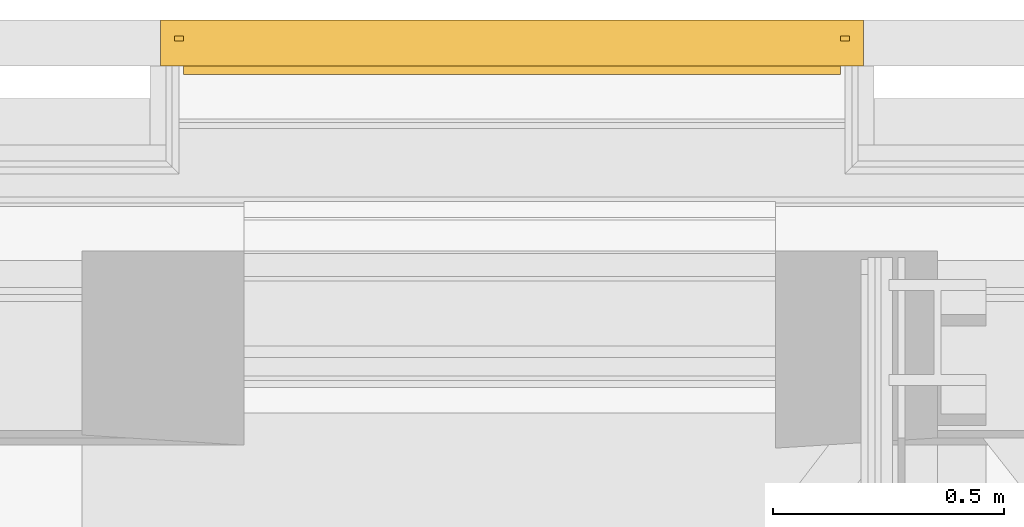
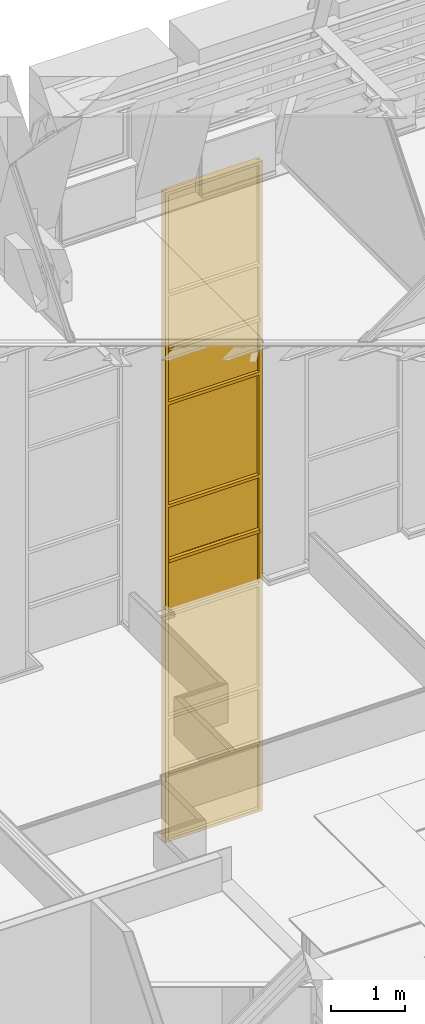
# One storey, part 152 of 183: 1 curtain wall.
"""IFC2X3 building model written with IfcOpenShell, lengths in metres."""

from ifc_helpers import new_model, entity, si_unit, converted_unit, derived_unit, money_unit, direction, frame, origin_with_axes, place, context, subcontext, project, spatial, faceted_brep, material, type_object, element, save


model = new_model("IFC2X3")

# Units and contexts
model_context = context("Model", 3, precision=1e-05, world=origin_with_axes(), true_north=direction((0.0, 1.0)))
body_context = subcontext(model_context, "Body", "Model", "MODEL_VIEW", scale=1.0)
ifc_project = project(units=[si_unit("LENGTHUNIT", "METRE"), si_unit("AREAUNIT", "SQUARE_METRE"), si_unit("VOLUMEUNIT", "CUBIC_METRE"), si_unit("ABSORBEDDOSEUNIT", "GRAY"), si_unit("AMOUNTOFSUBSTANCEUNIT", "MOLE"), si_unit("DOSEEQUIVALENTUNIT", "SIEVERT"), si_unit("ELECTRICCAPACITANCEUNIT", "FARAD"), si_unit("ELECTRICCHARGEUNIT", "COULOMB"), si_unit("ELECTRICCONDUCTANCEUNIT", "SIEMENS"), si_unit("ELECTRICCURRENTUNIT", "AMPERE"), si_unit("ELECTRICRESISTANCEUNIT", "OHM"), si_unit("ELECTRICVOLTAGEUNIT", "VOLT"), si_unit("ENERGYUNIT", "JOULE"), si_unit("FORCEUNIT", "NEWTON"), si_unit("FREQUENCYUNIT", "HERTZ"), si_unit("ILLUMINANCEUNIT", "LUX"), si_unit("INDUCTANCEUNIT", "HENRY"), si_unit("LUMINOUSFLUXUNIT", "LUMEN"), si_unit("LUMINOUSINTENSITYUNIT", "CANDELA"), si_unit("MAGNETICFLUXDENSITYUNIT", "TESLA"), si_unit("MAGNETICFLUXUNIT", "WEBER"), si_unit("MASSUNIT", "GRAM"), converted_unit("PLANEANGLEUNIT", "degree", entity("IfcReal", 0.0174532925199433), si_unit("PLANEANGLEUNIT", "RADIAN"), dimensions=[0, 0, 0, 0, 0, 0, 0]), si_unit("POWERUNIT", "WATT"), si_unit("PRESSUREUNIT", "PASCAL"), si_unit("RADIOACTIVITYUNIT", "BECQUEREL"), si_unit("SOLIDANGLEUNIT", "STERADIAN"), si_unit("THERMODYNAMICTEMPERATUREUNIT", "KELVIN"), si_unit("TIMEUNIT", "SECOND"), derived_unit("ACCELERATIONUNIT", [(si_unit("LENGTHUNIT", "METRE"), 1), (si_unit("TIMEUNIT", "SECOND"), -2)]), derived_unit("ANGULARVELOCITYUNIT", [(converted_unit("PLANEANGLEUNIT", "degree", entity("IfcReal", 0.0174532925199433), si_unit("PLANEANGLEUNIT", "RADIAN"), dimensions=[0, 0, 0, 0, 0, 0, 0]), 1), (si_unit("TIMEUNIT", "SECOND"), -1)]), derived_unit("CURVATUREUNIT", [(converted_unit("PLANEANGLEUNIT", "degree", entity("IfcReal", 0.0174532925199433), si_unit("PLANEANGLEUNIT", "RADIAN"), dimensions=[0, 0, 0, 0, 0, 0, 0]), 1), (si_unit("LENGTHUNIT", "METRE"), -1)]), derived_unit("DYNAMICVISCOSITYUNIT", [(si_unit("PRESSUREUNIT", "PASCAL"), 1), (si_unit("TIMEUNIT", "SECOND"), 1)]), derived_unit("HEATFLUXDENSITYUNIT", [(si_unit("POWERUNIT", "WATT"), 1), (si_unit("LENGTHUNIT", "METRE"), -2)]), derived_unit("HEATINGVALUEUNIT", [(si_unit("ENERGYUNIT", "JOULE"), 1), (si_unit("MASSUNIT", "GRAM"), -1)]), derived_unit("INTEGERCOUNTRATEUNIT", [(si_unit("TIMEUNIT", "SECOND"), -1)]), derived_unit("IONCONCENTRATIONUNIT", [(si_unit("MASSUNIT", "GRAM"), 1), (si_unit("VOLUMEUNIT", "CUBIC_METRE"), -1)]), derived_unit("ISOTHERMALMOISTURECAPACITYUNIT", [(si_unit("VOLUMEUNIT", "CUBIC_METRE"), 1), (si_unit("MASSUNIT", "GRAM"), -1)]), derived_unit("KINEMATICVISCOSITYUNIT", [(si_unit("AREAUNIT", "SQUARE_METRE"), 1), (si_unit("TIMEUNIT", "SECOND"), -1)]), derived_unit("LINEARFORCEUNIT", [(si_unit("FORCEUNIT", "NEWTON"), 1), (si_unit("LENGTHUNIT", "METRE"), -1)]), derived_unit("LINEARMOMENTUNIT", [(si_unit("FORCEUNIT", "NEWTON"), 1), (si_unit("LENGTHUNIT", "METRE"), -1)]), derived_unit("LINEARSTIFFNESSUNIT", [(si_unit("FORCEUNIT", "NEWTON"), 1), (si_unit("LENGTHUNIT", "METRE"), -1)]), derived_unit("LINEARVELOCITYUNIT", [(si_unit("LENGTHUNIT", "METRE"), 1), (si_unit("TIMEUNIT", "SECOND"), -1)]), derived_unit("LUMINOUSINTENSITYDISTRIBUTIONUNIT", [(si_unit("LUMINOUSINTENSITYUNIT", "CANDELA"), 1), (si_unit("LUMINOUSFLUXUNIT", "LUMEN"), -1)]), derived_unit("MASSDENSITYUNIT", [(si_unit("MASSUNIT", "GRAM"), 1), (si_unit("VOLUMEUNIT", "CUBIC_METRE"), -1)]), derived_unit("MASSFLOWRATEUNIT", [(si_unit("MASSUNIT", "GRAM"), 1), (si_unit("TIMEUNIT", "SECOND"), -1)]), derived_unit("MASSPERLENGTHUNIT", [(si_unit("MASSUNIT", "GRAM"), 1), (si_unit("LENGTHUNIT", "METRE"), -1)]), derived_unit("MODULUSOFELASTICITYUNIT", [(si_unit("FORCEUNIT", "NEWTON"), 1), (si_unit("AREAUNIT", "SQUARE_METRE"), -1)]), derived_unit("MODULUSOFLINEARSUBGRADEREACTIONUNIT", [(si_unit("FORCEUNIT", "NEWTON"), 1), (si_unit("LENGTHUNIT", "METRE"), -2)]), derived_unit("MODULUSOFROTATIONALSUBGRADEREACTIONUNIT", [(si_unit("FORCEUNIT", "NEWTON"), 1), (si_unit("LENGTHUNIT", "METRE"), 1)]), derived_unit("MODULUSOFSUBGRADEREACTIONUNIT", [(si_unit("FORCEUNIT", "NEWTON"), 1), (si_unit("VOLUMEUNIT", "CUBIC_METRE"), -1)]), derived_unit("MOISTUREDIFFUSIVITYUNIT", [(si_unit("VOLUMEUNIT", "CUBIC_METRE"), 1), (si_unit("TIMEUNIT", "SECOND"), -1)]), derived_unit("MOLECULARWEIGHTUNIT", [(si_unit("MASSUNIT", "GRAM"), 1), (si_unit("AMOUNTOFSUBSTANCEUNIT", "MOLE"), -1)]), derived_unit("PLANARFORCEUNIT", [(si_unit("FORCEUNIT", "NEWTON"), 1), (si_unit("LENGTHUNIT", "METRE"), -2)]), derived_unit("ROTATIONALFREQUENCYUNIT", [(si_unit("TIMEUNIT", "SECOND"), -1)]), derived_unit("ROTATIONALMASSUNIT", [(si_unit("MASSUNIT", "GRAM"), 1), (si_unit("LENGTHUNIT", "METRE"), 2)]), derived_unit("ROTATIONALSTIFFNESSUNIT", [(si_unit("FORCEUNIT", "NEWTON"), 1), (si_unit("LENGTHUNIT", "METRE"), 1), (converted_unit("PLANEANGLEUNIT", "degree", entity("IfcReal", 0.0174532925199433), si_unit("PLANEANGLEUNIT", "RADIAN"), dimensions=[0, 0, 0, 0, 0, 0, 0]), -1)]), derived_unit("SECTIONAREAINTEGRALUNIT", [(si_unit("LENGTHUNIT", "METRE"), 5)]), derived_unit("SECTIONMODULUSUNIT", [(si_unit("LENGTHUNIT", "METRE"), 3)]), derived_unit("SHEARMODULUSUNIT", [(si_unit("FORCEUNIT", "NEWTON"), 1), (si_unit("AREAUNIT", "SQUARE_METRE"), -1)]), derived_unit("SOUNDPOWERUNIT", [(si_unit("ENERGYUNIT", "JOULE"), 1), (si_unit("TIMEUNIT", "SECOND"), -1)]), derived_unit("SPECIFICHEATCAPACITYUNIT", [(si_unit("FORCEUNIT", "NEWTON"), 1), (si_unit("MASSUNIT", "GRAM"), -1), (si_unit("THERMODYNAMICTEMPERATUREUNIT", "KELVIN"), -1)]), derived_unit("TEMPERATUREGRADIENTUNIT", [(si_unit("THERMODYNAMICTEMPERATUREUNIT", "KELVIN"), 1), (si_unit("LENGTHUNIT", "METRE"), -1)]), derived_unit("THERMALADMITTANCEUNIT", [(si_unit("POWERUNIT", "WATT"), 1), (si_unit("AREAUNIT", "SQUARE_METRE"), -1), (si_unit("THERMODYNAMICTEMPERATUREUNIT", "KELVIN"), -1)]), derived_unit("THERMALCONDUCTANCEUNIT", [(si_unit("POWERUNIT", "WATT"), 1), (si_unit("LENGTHUNIT", "METRE"), -1), (si_unit("THERMODYNAMICTEMPERATUREUNIT", "KELVIN"), -1)]), derived_unit("THERMALEXPANSIONCOEFFICIENTUNIT", [(si_unit("THERMODYNAMICTEMPERATUREUNIT", "KELVIN"), -1)]), derived_unit("THERMALRESISTANCEUNIT", [(si_unit("AREAUNIT", "SQUARE_METRE"), 1), (si_unit("POWERUNIT", "WATT"), -1)]), derived_unit("THERMALTRANSMITTANCEUNIT", [(si_unit("POWERUNIT", "WATT"), 1), (si_unit("AREAUNIT", "SQUARE_METRE"), -1), (si_unit("THERMODYNAMICTEMPERATUREUNIT", "KELVIN"), -1)]), derived_unit("TORQUEUNIT", [(si_unit("FORCEUNIT", "NEWTON"), 1), (si_unit("LENGTHUNIT", "METRE"), 1)]), derived_unit("VAPORPERMEABILITYUNIT", [(si_unit("MASSUNIT", "GRAM"), 1), (si_unit("TIMEUNIT", "SECOND"), -1)]), derived_unit("VOLUMETRICFLOWRATEUNIT", [(si_unit("VOLUMEUNIT", "CUBIC_METRE"), 1), (si_unit("TIMEUNIT", "SECOND"), -1)]), derived_unit("WARPINGCONSTANTUNIT", [(si_unit("LENGTHUNIT", "METRE"), 6)]), derived_unit("WARPINGMOMENTUNIT", [(si_unit("FORCEUNIT", "NEWTON"), 1), (si_unit("LENGTHUNIT", "METRE"), 2)]), money_unit("GBP")], contexts=[model_context])

# Site, building, storey
site_placement = place(None, origin_with_axes())
site = spatial("IfcSite", under=ifc_project, at=site_placement, Name="Site", CompositionType="ELEMENT")
building_placement = place(site_placement, origin_with_axes())
building = spatial("IfcBuilding", under=site, at=building_placement, Name="Building01", CompositionType="ELEMENT")
storey_placement = place(building_placement, frame((0.0, 0.0, 5.15), z_axis=(0.0, 0.0, 1.0), x_axis=(1.0, 0.0, 0.0)))
storey = spatial("IfcBuildingStorey", under=building, at=storey_placement, Name="1F", CompositionType="ELEMENT", Elevation=5.15)

# Curtain wall
ifc_material = material(Name="A-CurtainWall_Frame")
curtain_wall_type = type_object("IfcCurtainWallType", Name="Pattern - Maximum Spacing", PredefinedType="NOTDEFINED")
curtain_wall_placement = place(storey_placement, frame((0.0, 0.0, -5.15), z_axis=(0.0, 0.0, 1.0), x_axis=(1.0, 0.0, 0.0)))
element("IfcCurtainWall", 1, at=curtain_wall_placement, inside=storey, type_object=curtain_wall_type, material=ifc_material, Name="03", ObjectType="Pattern - Maximum Spacing", context=body_context, shape_type="Brep", body=[
    faceted_brep([(21.9, 14.85, 5.118945), (21.9, 14.87, 5.118945), (20.44, 14.87, 5.118945), (20.44, 14.85, 5.118945), (21.9, 14.85, 4.0), (21.9, 14.87, 4.0), (20.44, 14.85, 4.0), (20.44, 14.87, 4.0)], [[[0, 1, 2, 3]], [[4, 5, 1, 0]], [[6, 7, 5, 4]], [[3, 2, 7, 6]], [[1, 5, 7, 2]], [[3, 6, 4, 0]]]),
    faceted_brep([(20.41, 14.9, 3.97), (20.46, 14.9, 3.97), (20.46, 14.865, 3.97), (20.44, 14.865, 3.97), (20.44, 14.855, 3.97), (20.46, 14.855, 3.97), (20.46, 14.8, 3.97), (20.41, 14.8, 3.97), (20.41, 14.8, 5.123945), (20.41, 14.9, 5.123945), (20.46, 14.9, 5.123945), (20.46, 14.865, 5.123945), (20.44, 14.865, 5.123945), (20.44, 14.855, 5.123945), (20.46, 14.855, 5.123945), (20.46, 14.8, 5.123945)], [[[0, 1, 2, 3, 4, 5, 6, 7]], [[7, 8, 9, 0]], [[0, 9, 10, 1]], [[1, 10, 11, 2]], [[2, 11, 12, 3]], [[3, 12, 13, 4]], [[4, 13, 14, 5]], [[5, 14, 15, 6]], [[6, 15, 8, 7]]]),
    faceted_brep([(21.88, 14.9, 4.02), (21.88, 14.865, 4.02), (21.88, 14.865, 4.0), (21.88, 14.855, 4.0), (21.88, 14.855, 4.02), (21.88, 14.8, 4.02), (21.88, 14.8, 3.97), (21.88, 14.9, 3.97), (20.46, 14.9, 3.97), (20.46, 14.9, 4.02), (20.46, 14.865, 4.02), (20.46, 14.865, 4.0), (20.46, 14.855, 4.0), (20.46, 14.855, 4.02), (20.46, 14.8, 4.02), (20.46, 14.8, 3.97)], [[[0, 1, 2, 3, 4, 5, 6, 7]], [[7, 8, 9, 0]], [[0, 9, 10, 1]], [[1, 10, 11, 2]], [[2, 11, 12, 3]], [[3, 12, 13, 4]], [[4, 13, 14, 5]], [[5, 14, 15, 6]], [[6, 15, 8, 7]], [[8, 15, 14, 13, 12, 11, 10, 9]]]),
    faceted_brep([(21.93, 14.9, 3.97), (21.93, 14.9, 5.123945), (21.93, 14.8, 5.123945), (21.93, 14.8, 3.97), (21.88, 14.9, 3.97), (21.88, 14.9, 5.123945), (21.88, 14.865, 3.97), (21.88, 14.865, 5.123945), (21.9, 14.865, 3.97), (21.9, 14.865, 5.123945), (21.9, 14.855, 3.97), (21.9, 14.855, 5.123945), (21.88, 14.855, 3.97), (21.88, 14.855, 5.123945), (21.88, 14.8, 3.97), (21.88, 14.8, 5.123945)], [[[0, 1, 2, 3]], [[4, 5, 1, 0]], [[6, 7, 5, 4]], [[8, 9, 7, 6]], [[10, 11, 9, 8]], [[12, 13, 11, 10]], [[14, 15, 13, 12]], [[3, 2, 15, 14]], [[14, 12, 10, 8, 6, 4, 0, 3]]]),
    faceted_brep([(20.46, 14.8375, 5.128945), (20.46, 14.8475, 5.128945), (20.46, 14.8475, 5.148945), (20.46, 14.8825, 5.148945), (20.46, 14.8825, 5.098945), (20.46, 14.8475, 5.098945), (20.46, 14.8475, 5.118945), (20.46, 14.8375, 5.118945), (20.46, 14.8375, 5.098945), (20.46, 14.7825, 5.098945), (20.46, 14.7825, 5.148945), (20.46, 14.8375, 5.148945), (21.88, 14.8375, 5.148945), (21.88, 14.8375, 5.128945), (21.88, 14.8475, 5.128945), (21.88, 14.8475, 5.148945), (21.88, 14.8825, 5.148945), (21.88, 14.8825, 5.098945), (21.88, 14.8475, 5.098945), (21.88, 14.8375, 5.118945), (21.88, 14.8375, 5.098945), (21.88, 14.8475, 5.118945), (21.88, 14.7825, 5.148945), (21.88, 14.7825, 5.098945)], [[[0, 1, 2, 3, 4, 5, 6, 7, 8, 9, 10, 11]], [[11, 12, 13, 0]], [[0, 13, 14, 1]], [[1, 14, 15, 2]], [[2, 15, 16, 3]], [[3, 16, 17, 4]], [[4, 17, 18, 5]], [[7, 19, 20, 8]], [[6, 21, 19, 7]], [[5, 18, 21, 6]], [[10, 22, 12, 11]], [[9, 23, 22, 10]], [[8, 20, 23, 9]], [[20, 19, 21, 18, 17, 16, 15, 14, 13, 12, 22, 23]]]),
    faceted_brep([(21.9, 14.85, 6.018105), (21.9, 14.87, 6.018105), (20.44, 14.87, 6.018105), (20.44, 14.85, 6.018105), (21.9, 14.85, 5.128945), (21.9, 14.87, 5.128945), (20.44, 14.85, 5.128945), (20.44, 14.87, 5.128945)], [[[0, 1, 2, 3]], [[4, 5, 1, 0]], [[6, 7, 5, 4]], [[3, 2, 7, 6]], [[1, 5, 7, 2]], [[3, 6, 4, 0]]]),
    faceted_brep([(20.46, 14.8, 6.023105), (20.46, 14.8, 5.123945), (20.46, 14.855, 5.123945), (20.46, 14.855, 6.023105), (20.41, 14.8, 6.023105), (20.41, 14.8, 5.123945), (20.41, 14.9, 6.023105), (20.41, 14.9, 5.123945), (20.46, 14.9, 6.023105), (20.46, 14.9, 5.123945), (20.46, 14.865, 6.023105), (20.46, 14.865, 5.123945), (20.44, 14.865, 6.023105), (20.44, 14.865, 5.123945), (20.44, 14.855, 6.023105), (20.44, 14.855, 5.123945)], [[[0, 1, 2, 3]], [[4, 5, 1, 0]], [[6, 7, 5, 4]], [[8, 9, 7, 6]], [[10, 11, 9, 8]], [[12, 13, 11, 10]], [[14, 15, 13, 12]], [[3, 2, 15, 14]]]),
    faceted_brep([(21.93, 14.9, 5.123945), (21.93, 14.9, 6.023105), (21.93, 14.8, 6.023105), (21.93, 14.8, 5.123945), (21.88, 14.9, 5.123945), (21.88, 14.9, 6.023105), (21.88, 14.865, 5.123945), (21.88, 14.865, 6.023105), (21.9, 14.865, 5.123945), (21.9, 14.865, 6.023105), (21.9, 14.855, 5.123945), (21.9, 14.855, 6.023105), (21.88, 14.855, 5.123945), (21.88, 14.855, 6.023105), (21.88, 14.8, 5.123945), (21.88, 14.8, 6.023105)], [[[0, 1, 2, 3]], [[4, 5, 1, 0]], [[6, 7, 5, 4]], [[8, 9, 7, 6]], [[10, 11, 9, 8]], [[12, 13, 11, 10]], [[14, 15, 13, 12]], [[3, 2, 15, 14]]]),
    faceted_brep([(20.46, 14.855, 6.028105), (20.46, 14.865, 6.028105), (20.46, 14.865, 6.048105), (20.46, 14.9, 6.048105), (20.46, 14.9, 5.998105), (20.46, 14.865, 5.998105), (20.46, 14.865, 6.018105), (20.46, 14.855, 6.018105), (20.46, 14.855, 5.998105), (20.46, 14.8, 5.998105), (20.46, 14.8, 6.048105), (20.46, 14.855, 6.048105), (21.88, 14.855, 6.048105), (21.88, 14.855, 6.028105), (21.88, 14.865, 6.028105), (21.88, 14.865, 6.048105), (21.88, 14.9, 6.048105), (21.88, 14.9, 5.998105), (21.88, 14.865, 5.998105), (21.88, 14.855, 6.018105), (21.88, 14.855, 5.998105), (21.88, 14.865, 6.018105), (21.88, 14.8, 6.048105), (21.88, 14.8, 5.998105)], [[[0, 1, 2, 3, 4, 5, 6, 7, 8, 9, 10, 11]], [[11, 12, 13, 0]], [[0, 13, 14, 1]], [[1, 14, 15, 2]], [[2, 15, 16, 3]], [[3, 16, 17, 4]], [[4, 17, 18, 5]], [[7, 19, 20, 8]], [[6, 21, 19, 7]], [[5, 18, 21, 6]], [[10, 22, 12, 11]], [[9, 23, 22, 10]], [[8, 20, 23, 9]], [[20, 19, 21, 18, 17, 16, 15, 14, 13, 12, 22, 23]]]),
    faceted_brep([(21.9, 14.855, 7.716517), (21.9, 14.865, 7.716517), (20.44, 14.865, 7.716517), (20.44, 14.855, 7.716517), (21.9, 14.855, 6.028105), (21.9, 14.865, 6.028105), (20.44, 14.855, 6.028105), (20.44, 14.865, 6.028105)], [[[0, 1, 2, 3]], [[4, 5, 1, 0]], [[6, 7, 5, 4]], [[3, 2, 7, 6]], [[1, 5, 7, 2]], [[3, 6, 4, 0]]]),
    faceted_brep([(20.46, 14.8, 7.721517), (20.46, 14.8, 6.023105), (20.46, 14.855, 6.023105), (20.46, 14.855, 7.721517), (20.41, 14.8, 7.721517), (20.41, 14.8, 6.023105), (20.41, 14.9, 7.721517), (20.41, 14.9, 6.023105), (20.46, 14.9, 7.721517), (20.46, 14.9, 6.023105), (20.46, 14.865, 7.721517), (20.46, 14.865, 6.023105), (20.44, 14.865, 7.721517), (20.44, 14.865, 6.023105), (20.44, 14.855, 7.721517), (20.44, 14.855, 6.023105)], [[[0, 1, 2, 3]], [[4, 5, 1, 0]], [[6, 7, 5, 4]], [[8, 9, 7, 6]], [[10, 11, 9, 8]], [[12, 13, 11, 10]], [[14, 15, 13, 12]], [[3, 2, 15, 14]]]),
    faceted_brep([(21.93, 14.9, 6.023105), (21.93, 14.9, 7.721517), (21.93, 14.8, 7.721517), (21.93, 14.8, 6.023105), (21.88, 14.9, 6.023105), (21.88, 14.9, 7.721517), (21.88, 14.865, 6.023105), (21.88, 14.865, 7.721517), (21.9, 14.865, 6.023105), (21.9, 14.865, 7.721517), (21.9, 14.855, 6.023105), (21.9, 14.855, 7.721517), (21.88, 14.855, 6.023105), (21.88, 14.855, 7.721517), (21.88, 14.8, 6.023105), (21.88, 14.8, 7.721517)], [[[0, 1, 2, 3]], [[4, 5, 1, 0]], [[6, 7, 5, 4]], [[8, 9, 7, 6]], [[10, 11, 9, 8]], [[12, 13, 11, 10]], [[14, 15, 13, 12]], [[3, 2, 15, 14]]]),
    faceted_brep([(20.46, 14.855, 7.726517), (20.46, 14.865, 7.726517), (20.46, 14.865, 7.746517), (20.46, 14.9, 7.746517), (20.46, 14.9, 7.696517), (20.46, 14.865, 7.696517), (20.46, 14.865, 7.716517), (20.46, 14.855, 7.716517), (20.46, 14.855, 7.696517), (20.46, 14.8, 7.696517), (20.46, 14.8, 7.746517), (20.46, 14.855, 7.746517), (21.88, 14.855, 7.746517), (21.88, 14.855, 7.726517), (21.88, 14.865, 7.726517), (21.88, 14.865, 7.746517), (21.88, 14.9, 7.746517), (21.88, 14.9, 7.696517), (21.88, 14.865, 7.696517), (21.88, 14.855, 7.716517), (21.88, 14.855, 7.696517), (21.88, 14.865, 7.716517), (21.88, 14.8, 7.746517), (21.88, 14.8, 7.696517)], [[[0, 1, 2, 3, 4, 5, 6, 7, 8, 9, 10, 11]], [[11, 12, 13, 0]], [[0, 13, 14, 1]], [[1, 14, 15, 2]], [[2, 15, 16, 3]], [[3, 16, 17, 4]], [[4, 17, 18, 5]], [[7, 19, 20, 8]], [[6, 21, 19, 7]], [[5, 18, 21, 6]], [[10, 22, 12, 11]], [[9, 23, 22, 10]], [[8, 20, 23, 9]], [[20, 19, 21, 18, 17, 16, 15, 14, 13, 12, 22, 23]]]),
    faceted_brep([(21.9, 14.85, 8.615677), (21.9, 14.87, 8.615677), (20.44, 14.87, 8.615677), (20.44, 14.85, 8.615677), (21.9, 14.85, 7.726517), (21.9, 14.87, 7.726517), (20.44, 14.85, 7.726517), (20.44, 14.87, 7.726517)], [[[0, 1, 2, 3]], [[4, 5, 1, 0]], [[6, 7, 5, 4]], [[3, 2, 7, 6]], [[1, 5, 7, 2]], [[3, 6, 4, 0]]]),
    faceted_brep([(20.46, 14.8, 8.620677), (20.46, 14.8, 7.721517), (20.46, 14.855, 7.721517), (20.46, 14.855, 8.620677), (20.41, 14.8, 8.620677), (20.41, 14.8, 7.721517), (20.41, 14.9, 8.620677), (20.41, 14.9, 7.721517), (20.46, 14.9, 8.620677), (20.46, 14.9, 7.721517), (20.46, 14.865, 8.620677), (20.46, 14.865, 7.721517), (20.44, 14.865, 8.620677), (20.44, 14.865, 7.721517), (20.44, 14.855, 8.620677), (20.44, 14.855, 7.721517)], [[[0, 1, 2, 3]], [[4, 5, 1, 0]], [[6, 7, 5, 4]], [[8, 9, 7, 6]], [[10, 11, 9, 8]], [[12, 13, 11, 10]], [[14, 15, 13, 12]], [[3, 2, 15, 14]]]),
    faceted_brep([(21.93, 14.9, 7.721517), (21.93, 14.9, 8.620677), (21.93, 14.8, 8.620677), (21.93, 14.8, 7.721517), (21.88, 14.9, 7.721517), (21.88, 14.9, 8.620677), (21.88, 14.865, 7.721517), (21.88, 14.865, 8.620677), (21.9, 14.865, 7.721517), (21.9, 14.865, 8.620677), (21.9, 14.855, 7.721517), (21.9, 14.855, 8.620677), (21.88, 14.855, 7.721517), (21.88, 14.855, 8.620677), (21.88, 14.8, 7.721517), (21.88, 14.8, 8.620677)], [[[0, 1, 2, 3]], [[4, 5, 1, 0]], [[6, 7, 5, 4]], [[8, 9, 7, 6]], [[10, 11, 9, 8]], [[12, 13, 11, 10]], [[14, 15, 13, 12]], [[3, 2, 15, 14]]]),
    faceted_brep([(20.46, 14.8375, 8.625677), (20.46, 14.8475, 8.625677), (20.46, 14.8475, 8.645677), (20.46, 14.8825, 8.645677), (20.46, 14.8825, 8.595677), (20.46, 14.8475, 8.595677), (20.46, 14.8475, 8.615677), (20.46, 14.8375, 8.615677), (20.46, 14.8375, 8.595677), (20.46, 14.7825, 8.595677), (20.46, 14.7825, 8.645677), (20.46, 14.8375, 8.645677), (21.88, 14.8375, 8.645677), (21.88, 14.8375, 8.625677), (21.88, 14.8475, 8.625677), (21.88, 14.8475, 8.645677), (21.88, 14.8825, 8.645677), (21.88, 14.8825, 8.595677), (21.88, 14.8475, 8.595677), (21.88, 14.8375, 8.615677), (21.88, 14.8375, 8.595677), (21.88, 14.8475, 8.615677), (21.88, 14.7825, 8.645677), (21.88, 14.7825, 8.595677)], [[[0, 1, 2, 3, 4, 5, 6, 7, 8, 9, 10, 11]], [[11, 12, 13, 0]], [[0, 13, 14, 1]], [[1, 14, 15, 2]], [[2, 15, 16, 3]], [[3, 16, 17, 4]], [[4, 17, 18, 5]], [[7, 19, 20, 8]], [[6, 21, 19, 7]], [[5, 18, 21, 6]], [[10, 22, 12, 11]], [[9, 23, 22, 10]], [[8, 20, 23, 9]], [[20, 19, 21, 18, 17, 16, 15, 14, 13, 12, 22, 23]]]),
    faceted_brep([(21.9, 14.85, 9.514837), (21.9, 14.87, 9.514837), (20.44, 14.87, 9.514837), (20.44, 14.85, 9.514837), (21.9, 14.85, 8.625677), (21.9, 14.87, 8.625677), (20.44, 14.85, 8.625677), (20.44, 14.87, 8.625677)], [[[0, 1, 2, 3]], [[4, 5, 1, 0]], [[6, 7, 5, 4]], [[3, 2, 7, 6]], [[1, 5, 7, 2]], [[3, 6, 4, 0]]]),
    faceted_brep([(20.46, 14.8, 9.519837), (20.46, 14.8, 8.620677), (20.46, 14.855, 8.620677), (20.46, 14.855, 9.519837), (20.41, 14.8, 9.519837), (20.41, 14.8, 8.620677), (20.41, 14.9, 9.519837), (20.41, 14.9, 8.620677), (20.46, 14.9, 9.519837), (20.46, 14.9, 8.620677), (20.46, 14.865, 9.519837), (20.46, 14.865, 8.620677), (20.44, 14.865, 9.519837), (20.44, 14.865, 8.620677), (20.44, 14.855, 9.519837), (20.44, 14.855, 8.620677)], [[[0, 1, 2, 3]], [[4, 5, 1, 0]], [[6, 7, 5, 4]], [[8, 9, 7, 6]], [[10, 11, 9, 8]], [[12, 13, 11, 10]], [[14, 15, 13, 12]], [[3, 2, 15, 14]]]),
    faceted_brep([(21.93, 14.9, 8.620677), (21.93, 14.9, 9.519837), (21.93, 14.8, 9.519837), (21.93, 14.8, 8.620677), (21.88, 14.9, 8.620677), (21.88, 14.9, 9.519837), (21.88, 14.865, 8.620677), (21.88, 14.865, 9.519837), (21.9, 14.865, 8.620677), (21.9, 14.865, 9.519837), (21.9, 14.855, 8.620677), (21.9, 14.855, 9.519837), (21.88, 14.855, 8.620677), (21.88, 14.855, 9.519837), (21.88, 14.8, 8.620677), (21.88, 14.8, 9.519837)], [[[0, 1, 2, 3]], [[4, 5, 1, 0]], [[6, 7, 5, 4]], [[8, 9, 7, 6]], [[10, 11, 9, 8]], [[12, 13, 11, 10]], [[14, 15, 13, 12]], [[3, 2, 15, 14]]]),
    faceted_brep([(20.46, 14.855, 9.524837), (20.46, 14.865, 9.524837), (20.46, 14.865, 9.544837), (20.46, 14.9, 9.544837), (20.46, 14.9, 9.494837), (20.46, 14.865, 9.494837), (20.46, 14.865, 9.514837), (20.46, 14.855, 9.514837), (20.46, 14.855, 9.494837), (20.46, 14.8, 9.494837), (20.46, 14.8, 9.544837), (20.46, 14.855, 9.544837), (21.88, 14.855, 9.544837), (21.88, 14.855, 9.524837), (21.88, 14.865, 9.524837), (21.88, 14.865, 9.544837), (21.88, 14.9, 9.544837), (21.88, 14.9, 9.494837), (21.88, 14.865, 9.494837), (21.88, 14.855, 9.514837), (21.88, 14.855, 9.494837), (21.88, 14.865, 9.514837), (21.88, 14.8, 9.544837), (21.88, 14.8, 9.494837)], [[[0, 1, 2, 3, 4, 5, 6, 7, 8, 9, 10, 11]], [[11, 12, 13, 0]], [[0, 13, 14, 1]], [[1, 14, 15, 2]], [[2, 15, 16, 3]], [[3, 16, 17, 4]], [[4, 17, 18, 5]], [[7, 19, 20, 8]], [[6, 21, 19, 7]], [[5, 18, 21, 6]], [[10, 22, 12, 11]], [[9, 23, 22, 10]], [[8, 20, 23, 9]], [[20, 19, 21, 18, 17, 16, 15, 14, 13, 12, 22, 23]]]),
    faceted_brep([(21.9, 14.855, 11.213249), (21.9, 14.865, 11.213249), (20.44, 14.865, 11.213249), (20.44, 14.855, 11.213249), (21.9, 14.855, 9.524837), (21.9, 14.865, 9.524837), (20.44, 14.855, 9.524837), (20.44, 14.865, 9.524837)], [[[0, 1, 2, 3]], [[4, 5, 1, 0]], [[6, 7, 5, 4]], [[3, 2, 7, 6]], [[1, 5, 7, 2]], [[3, 6, 4, 0]]]),
    faceted_brep([(20.46, 14.8, 11.218249), (20.46, 14.8, 9.519837), (20.46, 14.855, 9.519837), (20.46, 14.855, 11.218249), (20.41, 14.8, 11.218249), (20.41, 14.8, 9.519837), (20.41, 14.9, 11.218249), (20.41, 14.9, 9.519837), (20.46, 14.9, 11.218249), (20.46, 14.9, 9.519837), (20.46, 14.865, 11.218249), (20.46, 14.865, 9.519837), (20.44, 14.865, 11.218249), (20.44, 14.865, 9.519837), (20.44, 14.855, 11.218249), (20.44, 14.855, 9.519837)], [[[0, 1, 2, 3]], [[4, 5, 1, 0]], [[6, 7, 5, 4]], [[8, 9, 7, 6]], [[10, 11, 9, 8]], [[12, 13, 11, 10]], [[14, 15, 13, 12]], [[3, 2, 15, 14]]]),
    faceted_brep([(21.93, 14.9, 9.519837), (21.93, 14.9, 11.218249), (21.93, 14.8, 11.218249), (21.93, 14.8, 9.519837), (21.88, 14.9, 9.519837), (21.88, 14.9, 11.218249), (21.88, 14.865, 9.519837), (21.88, 14.865, 11.218249), (21.9, 14.865, 9.519837), (21.9, 14.865, 11.218249), (21.9, 14.855, 9.519837), (21.9, 14.855, 11.218249), (21.88, 14.855, 9.519837), (21.88, 14.855, 11.218249), (21.88, 14.8, 9.519837), (21.88, 14.8, 11.218249)], [[[0, 1, 2, 3]], [[4, 5, 1, 0]], [[6, 7, 5, 4]], [[8, 9, 7, 6]], [[10, 11, 9, 8]], [[12, 13, 11, 10]], [[14, 15, 13, 12]], [[3, 2, 15, 14]]]),
    faceted_brep([(20.46, 14.855, 11.223249), (20.46, 14.865, 11.223249), (20.46, 14.865, 11.243249), (20.46, 14.9, 11.243249), (20.46, 14.9, 11.193249), (20.46, 14.865, 11.193249), (20.46, 14.865, 11.213249), (20.46, 14.855, 11.213249), (20.46, 14.855, 11.193249), (20.46, 14.8, 11.193249), (20.46, 14.8, 11.243249), (20.46, 14.855, 11.243249), (21.88, 14.855, 11.243249), (21.88, 14.855, 11.223249), (21.88, 14.865, 11.223249), (21.88, 14.865, 11.243249), (21.88, 14.9, 11.243249), (21.88, 14.9, 11.193249), (21.88, 14.865, 11.193249), (21.88, 14.855, 11.213249), (21.88, 14.855, 11.193249), (21.88, 14.865, 11.213249), (21.88, 14.8, 11.243249), (21.88, 14.8, 11.193249)], [[[0, 1, 2, 3, 4, 5, 6, 7, 8, 9, 10, 11]], [[11, 12, 13, 0]], [[0, 13, 14, 1]], [[1, 14, 15, 2]], [[2, 15, 16, 3]], [[3, 16, 17, 4]], [[4, 17, 18, 5]], [[7, 19, 20, 8]], [[6, 21, 19, 7]], [[5, 18, 21, 6]], [[10, 22, 12, 11]], [[9, 23, 22, 10]], [[8, 20, 23, 9]], [[20, 19, 21, 18, 17, 16, 15, 14, 13, 12, 22, 23]]]),
    faceted_brep([(21.9, 14.85, 12.112409), (21.9, 14.87, 12.112409), (20.44, 14.87, 12.112409), (20.44, 14.85, 12.112409), (21.9, 14.85, 11.223249), (21.9, 14.87, 11.223249), (20.44, 14.85, 11.223249), (20.44, 14.87, 11.223249)], [[[0, 1, 2, 3]], [[4, 5, 1, 0]], [[6, 7, 5, 4]], [[3, 2, 7, 6]], [[1, 5, 7, 2]], [[3, 6, 4, 0]]]),
    faceted_brep([(20.46, 14.8, 12.117409), (20.46, 14.8, 11.218249), (20.46, 14.855, 11.218249), (20.46, 14.855, 12.117409), (20.41, 14.8, 12.117409), (20.41, 14.8, 11.218249), (20.41, 14.9, 12.117409), (20.41, 14.9, 11.218249), (20.46, 14.9, 12.117409), (20.46, 14.9, 11.218249), (20.46, 14.865, 12.117409), (20.46, 14.865, 11.218249), (20.44, 14.865, 12.117409), (20.44, 14.865, 11.218249), (20.44, 14.855, 12.117409), (20.44, 14.855, 11.218249)], [[[0, 1, 2, 3]], [[4, 5, 1, 0]], [[6, 7, 5, 4]], [[8, 9, 7, 6]], [[10, 11, 9, 8]], [[12, 13, 11, 10]], [[14, 15, 13, 12]], [[3, 2, 15, 14]]]),
    faceted_brep([(21.93, 14.9, 11.218249), (21.93, 14.9, 12.117409), (21.93, 14.8, 12.117409), (21.93, 14.8, 11.218249), (21.88, 14.9, 11.218249), (21.88, 14.9, 12.117409), (21.88, 14.865, 11.218249), (21.88, 14.865, 12.117409), (21.9, 14.865, 11.218249), (21.9, 14.865, 12.117409), (21.9, 14.855, 11.218249), (21.9, 14.855, 12.117409), (21.88, 14.855, 11.218249), (21.88, 14.855, 12.117409), (21.88, 14.8, 11.218249), (21.88, 14.8, 12.117409)], [[[0, 1, 2, 3]], [[4, 5, 1, 0]], [[6, 7, 5, 4]], [[8, 9, 7, 6]], [[10, 11, 9, 8]], [[12, 13, 11, 10]], [[14, 15, 13, 12]], [[3, 2, 15, 14]]]),
    faceted_brep([(20.46, 14.8375, 12.122409), (20.46, 14.8475, 12.122409), (20.46, 14.8475, 12.142409), (20.46, 14.8825, 12.142409), (20.46, 14.8825, 12.092409), (20.46, 14.8475, 12.092409), (20.46, 14.8475, 12.112409), (20.46, 14.8375, 12.112409), (20.46, 14.8375, 12.092409), (20.46, 14.7825, 12.092409), (20.46, 14.7825, 12.142409), (20.46, 14.8375, 12.142409), (21.88, 14.8375, 12.142409), (21.88, 14.8375, 12.122409), (21.88, 14.8475, 12.122409), (21.88, 14.8475, 12.142409), (21.88, 14.8825, 12.142409), (21.88, 14.8825, 12.092409), (21.88, 14.8475, 12.092409), (21.88, 14.8375, 12.112409), (21.88, 14.8375, 12.092409), (21.88, 14.8475, 12.112409), (21.88, 14.7825, 12.142409), (21.88, 14.7825, 12.092409)], [[[0, 1, 2, 3, 4, 5, 6, 7, 8, 9, 10, 11]], [[11, 12, 13, 0]], [[0, 13, 14, 1]], [[1, 14, 15, 2]], [[2, 15, 16, 3]], [[3, 16, 17, 4]], [[4, 17, 18, 5]], [[7, 19, 20, 8]], [[6, 21, 19, 7]], [[5, 18, 21, 6]], [[10, 22, 12, 11]], [[9, 23, 22, 10]], [[8, 20, 23, 9]], [[20, 19, 21, 18, 17, 16, 15, 14, 13, 12, 22, 23]]]),
    faceted_brep([(20.44, 14.855, 13.021569), (20.44, 14.865, 13.021569), (21.9, 14.865, 13.021569), (21.9, 14.855, 13.021569), (20.44, 14.855, 14.69), (20.44, 14.865, 14.69), (21.9, 14.855, 14.69), (21.9, 14.865, 14.69)], [[[0, 1, 2, 3]], [[4, 5, 1, 0]], [[6, 7, 5, 4]], [[3, 2, 7, 6]], [[1, 5, 7, 2]], [[3, 6, 4, 0]]]),
    faceted_brep([(21.93, 14.9, 14.72), (21.88, 14.9, 14.72), (21.88, 14.865, 14.72), (21.9, 14.865, 14.72), (21.9, 14.855, 14.72), (21.88, 14.855, 14.72), (21.88, 14.8, 14.72), (21.93, 14.8, 14.72), (21.93, 14.8, 13.016569), (21.93, 14.9, 13.016569), (21.88, 14.9, 13.016569), (21.88, 14.865, 13.016569), (21.9, 14.865, 13.016569), (21.9, 14.855, 13.016569), (21.88, 14.855, 13.016569), (21.88, 14.8, 13.016569)], [[[0, 1, 2, 3, 4, 5, 6, 7]], [[7, 8, 9, 0]], [[0, 9, 10, 1]], [[1, 10, 11, 2]], [[2, 11, 12, 3]], [[3, 12, 13, 4]], [[4, 13, 14, 5]], [[5, 14, 15, 6]], [[6, 15, 8, 7]]]),
    faceted_brep([(20.46, 14.865, 14.69), (20.46, 14.855, 14.69), (20.46, 14.855, 14.67), (20.46, 14.8, 14.67), (20.46, 14.8, 14.72), (20.46, 14.9, 14.72), (20.46, 14.9, 14.67), (20.46, 14.865, 14.67), (21.88, 14.865, 14.67), (21.88, 14.865, 14.69), (21.88, 14.855, 14.69), (21.88, 14.855, 14.67), (21.88, 14.8, 14.67), (21.88, 14.8, 14.72), (21.88, 14.9, 14.72), (21.88, 14.9, 14.67)], [[[0, 1, 2, 3, 4, 5, 6, 7]], [[7, 8, 9, 0]], [[0, 9, 10, 1]], [[1, 10, 11, 2]], [[2, 11, 12, 3]], [[3, 12, 13, 4]], [[4, 13, 14, 5]], [[5, 14, 15, 6]], [[6, 15, 8, 7]], [[8, 15, 14, 13, 12, 11, 10, 9]]]),
    faceted_brep([(20.41, 14.9, 14.72), (20.41, 14.9, 13.016569), (20.41, 14.8, 13.016569), (20.41, 14.8, 14.72), (20.46, 14.9, 14.72), (20.46, 14.9, 13.016569), (20.46, 14.865, 14.72), (20.46, 14.865, 13.016569), (20.44, 14.865, 14.72), (20.44, 14.865, 13.016569), (20.44, 14.855, 14.72), (20.44, 14.855, 13.016569), (20.46, 14.855, 14.72), (20.46, 14.855, 13.016569), (20.46, 14.8, 14.72), (20.46, 14.8, 13.016569)], [[[0, 1, 2, 3]], [[4, 5, 1, 0]], [[6, 7, 5, 4]], [[8, 9, 7, 6]], [[10, 11, 9, 8]], [[12, 13, 11, 10]], [[14, 15, 13, 12]], [[3, 2, 15, 14]], [[14, 12, 10, 8, 6, 4, 0, 3]]]),
    faceted_brep([(21.88, 14.865, 13.021569), (21.88, 14.855, 13.021569), (21.88, 14.855, 13.041569), (21.88, 14.8, 13.041569), (21.88, 14.8, 12.991569), (21.88, 14.855, 12.991569), (21.88, 14.855, 13.011569), (21.88, 14.865, 13.011569), (21.88, 14.865, 12.991569), (21.88, 14.9, 12.991569), (21.88, 14.9, 13.041569), (21.88, 14.865, 13.041569), (20.46, 14.865, 13.041569), (20.46, 14.865, 13.021569), (20.46, 14.855, 13.021569), (20.46, 14.855, 13.041569), (20.46, 14.8, 13.041569), (20.46, 14.8, 12.991569), (20.46, 14.855, 12.991569), (20.46, 14.865, 13.011569), (20.46, 14.865, 12.991569), (20.46, 14.855, 13.011569), (20.46, 14.9, 13.041569), (20.46, 14.9, 12.991569)], [[[0, 1, 2, 3, 4, 5, 6, 7, 8, 9, 10, 11]], [[11, 12, 13, 0]], [[0, 13, 14, 1]], [[1, 14, 15, 2]], [[2, 15, 16, 3]], [[3, 16, 17, 4]], [[4, 17, 18, 5]], [[7, 19, 20, 8]], [[6, 21, 19, 7]], [[5, 18, 21, 6]], [[10, 22, 12, 11]], [[9, 23, 22, 10]], [[8, 20, 23, 9]], [[20, 19, 21, 18, 17, 16, 15, 14, 13, 12, 22, 23]]]),
    faceted_brep([(21.9, 14.85, 13.011569), (21.9, 14.87, 13.011569), (20.44, 14.87, 13.011569), (20.44, 14.85, 13.011569), (21.9, 14.85, 12.122409), (21.9, 14.87, 12.122409), (20.44, 14.85, 12.122409), (20.44, 14.87, 12.122409)], [[[0, 1, 2, 3]], [[4, 5, 1, 0]], [[6, 7, 5, 4]], [[3, 2, 7, 6]], [[1, 5, 7, 2]], [[3, 6, 4, 0]]]),
    faceted_brep([(20.46, 14.8, 13.016569), (20.46, 14.8, 12.117409), (20.46, 14.855, 12.117409), (20.46, 14.855, 13.016569), (20.41, 14.8, 13.016569), (20.41, 14.8, 12.117409), (20.41, 14.9, 13.016569), (20.41, 14.9, 12.117409), (20.46, 14.9, 13.016569), (20.46, 14.9, 12.117409), (20.46, 14.865, 13.016569), (20.46, 14.865, 12.117409), (20.44, 14.865, 13.016569), (20.44, 14.865, 12.117409), (20.44, 14.855, 13.016569), (20.44, 14.855, 12.117409)], [[[0, 1, 2, 3]], [[4, 5, 1, 0]], [[6, 7, 5, 4]], [[8, 9, 7, 6]], [[10, 11, 9, 8]], [[12, 13, 11, 10]], [[14, 15, 13, 12]], [[3, 2, 15, 14]]]),
    faceted_brep([(21.93, 14.9, 12.117409), (21.93, 14.9, 13.016569), (21.93, 14.8, 13.016569), (21.93, 14.8, 12.117409), (21.88, 14.9, 12.117409), (21.88, 14.9, 13.016569), (21.88, 14.865, 12.117409), (21.88, 14.865, 13.016569), (21.9, 14.865, 12.117409), (21.9, 14.865, 13.016569), (21.9, 14.855, 12.117409), (21.9, 14.855, 13.016569), (21.88, 14.855, 12.117409), (21.88, 14.855, 13.016569), (21.88, 14.8, 12.117409), (21.88, 14.8, 13.016569)], [[[0, 1, 2, 3]], [[4, 5, 1, 0]], [[6, 7, 5, 4]], [[8, 9, 7, 6]], [[10, 11, 9, 8]], [[12, 13, 11, 10]], [[14, 15, 13, 12]], [[3, 2, 15, 14]]]),
])

save(model, "model.ifc")
